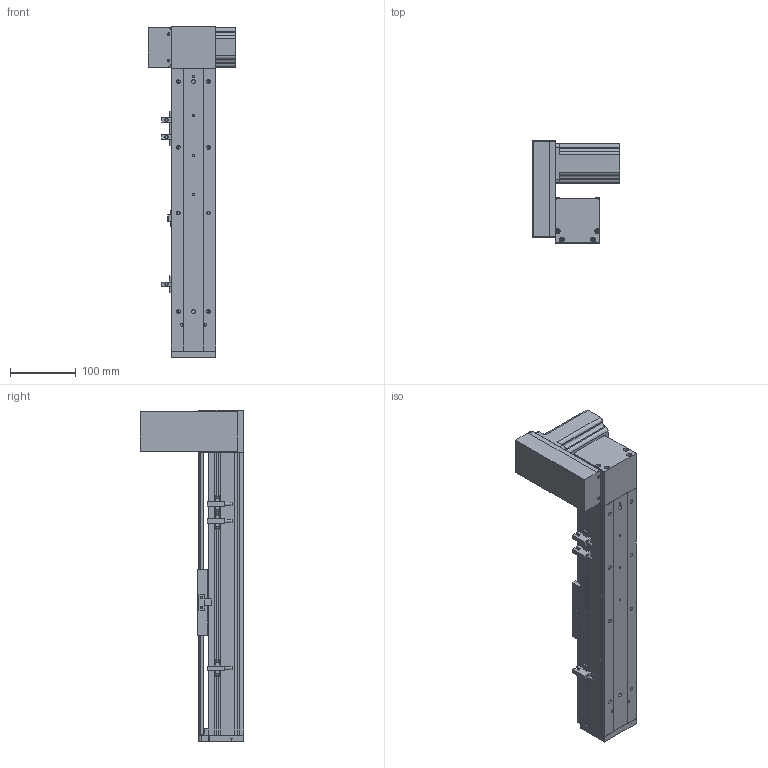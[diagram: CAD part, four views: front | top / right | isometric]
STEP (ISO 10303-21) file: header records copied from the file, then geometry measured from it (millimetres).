
FILE_DESCRIPTION (( 'STEP AP203' ), '1' );
FILE_NAME ('ML68-S250-UR.STEP', '2016-08-05T00:52:14', ( '' ), ( '' ), 'SwSTEP 2.0', 'SolidWorks 2014', '' );
FILE_SCHEMA (( 'CONFIG_CONTROL_DESIGN' ));
Length unit declared in the file: millimetre
Products named in the file (12): 三协电机MH201N2_預設; 60換覜結え; ML68傷啣; QS68左右折电机板罩子; QS68酘衵殏萇儂啣; ML68奻裔^ML68-S250-UR; ML68雄赽釱; 葩璃 ML68菁釱^ML68-S250-UR; ML68-S250-UR; ML68-BL傷啣; 換覜ん; ML68滅鳥啣盓傅輸
Assembly tree (13 placements, depth 2):
  ML68-S250-UR
    葩璃 ML68菁釱^ML68-S250-UR
    ML68奻裔^ML68-S250-UR
    ML68傷啣
    ML68-BL傷啣
    60換覜結え
    換覜ん  x3
    三协电机MH201N2_預設
    ML68雄赽釱
    QS68酘衵殏萇儂啣
    QS68左右折电机板罩子
    ML68滅鳥啣盓傅輸
Bounding box: 133.5 x 157 x 504 mm (x, y, z)
Volume: 1262412.7 mm3; surface area: 426403.2 mm2
Topology: 13 solids, 13 shells, 851 faces, 2326 edges, 1473 vertices
Faces by surface type: cylinder 382, plane 373, cone 96
Entity records: 26666 total; most frequent: CARTESIAN_POINT 4902, DIRECTION 4396, ORIENTED_EDGE 4152, EDGE_CURVE 2076, AXIS2_PLACEMENT_3D 1579, VERTEX_POINT 1361, VECTOR 1238, LINE 1238
